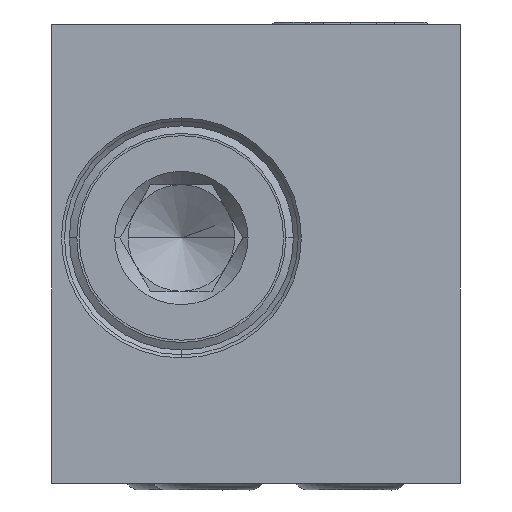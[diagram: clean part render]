
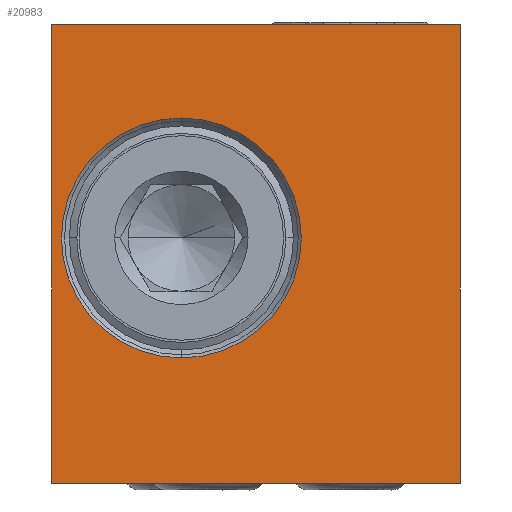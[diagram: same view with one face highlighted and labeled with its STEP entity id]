
A CAD part, left-side view. The second image highlights one B-rep face of the part: STEP entity #20983.
In plain terms, the highlighted planar face has unit normal (-1, 0, 0).
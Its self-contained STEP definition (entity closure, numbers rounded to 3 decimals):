
#3821=DIRECTION('',(0.,0.,1.));
#3822=VECTOR('',#3821,25.8);
#3823=CARTESIAN_POINT('',(-38.,11.5,-12.9));
#3824=LINE('',#3823,#3822);
#3825=DIRECTION('',(0.,-1.,0.));
#3826=VECTOR('',#3825,23.);
#3827=CARTESIAN_POINT('',(-38.,11.5,12.9));
#3828=LINE('',#3827,#3826);
#3829=DIRECTION('',(0.,0.,-1.));
#3830=VECTOR('',#3829,25.8);
#3831=CARTESIAN_POINT('',(-38.,-11.5,12.9));
#3832=LINE('',#3831,#3830);
#3833=DIRECTION('',(0.,1.,0.));
#3834=VECTOR('',#3833,23.);
#3835=CARTESIAN_POINT('',(-38.,-11.5,-12.9));
#3836=LINE('',#3835,#3834);
#3837=CARTESIAN_POINT('',(-38.,4.2,0.9));
#3838=DIRECTION('',(-1.,0.,0.));
#3839=DIRECTION('',(0.,0.,-1.));
#3840=AXIS2_PLACEMENT_3D('',#3837,#3838,#3839);
#3842=CARTESIAN_POINT('',(-38.,4.2,0.9));
#3843=DIRECTION('',(-1.,0.,0.));
#3844=DIRECTION('',(0.,0.,1.));
#3845=AXIS2_PLACEMENT_3D('',#3842,#3843,#3844);
#14389=CARTESIAN_POINT('',(-38.,11.5,12.9));
#14390=VERTEX_POINT('',#14389);
#14391=CARTESIAN_POINT('',(-38.,11.5,-12.9));
#14392=VERTEX_POINT('',#14391);
#14393=CARTESIAN_POINT('',(-38.,-11.5,12.9));
#14394=VERTEX_POINT('',#14393);
#14415=CARTESIAN_POINT('',(-38.,-11.5,-12.9));
#14416=VERTEX_POINT('',#14415);
#14461=CARTESIAN_POINT('',(-38.,4.2,-5.85));
#14462=CARTESIAN_POINT('',(-38.,4.2,7.65));
#14463=VERTEX_POINT('',#14461);
#14464=VERTEX_POINT('',#14462);
#20964=CARTESIAN_POINT('',(-38.,0.,0.));
#20965=DIRECTION('',(-1.,0.,0.));
#20966=DIRECTION('',(0.,-1.,0.));
#20967=AXIS2_PLACEMENT_3D('',#20964,#20965,#20966);
#20968=PLANE('',#20967);
#20969=ORIENTED_EDGE('',*,*,#20957,.T.);
#20970=ORIENTED_EDGE('',*,*,#18835,.T.);
#20972=ORIENTED_EDGE('',*,*,#20971,.T.);
#20974=ORIENTED_EDGE('',*,*,#20973,.T.);
#20975=EDGE_LOOP('',(#20969,#20970,#20972,#20974));
#20976=FACE_OUTER_BOUND('',#20975,.F.);
#20978=ORIENTED_EDGE('',*,*,#20977,.T.);
#20980=ORIENTED_EDGE('',*,*,#20979,.T.);
#20981=EDGE_LOOP('',(#20978,#20980));
#20982=FACE_BOUND('',#20981,.F.);
#20983=ADVANCED_FACE('',(#20976,#20982),#20968,.T.);
#3841=CIRCLE('',#3840,6.75);
#3846=CIRCLE('',#3845,6.75);
#18835=EDGE_CURVE('',#14390,#14394,#3828,.T.);
#20957=EDGE_CURVE('',#14392,#14390,#3824,.T.);
#20971=EDGE_CURVE('',#14394,#14416,#3832,.T.);
#20973=EDGE_CURVE('',#14416,#14392,#3836,.T.);
#20977=EDGE_CURVE('',#14463,#14464,#3841,.T.);
#20979=EDGE_CURVE('',#14464,#14463,#3846,.T.);
